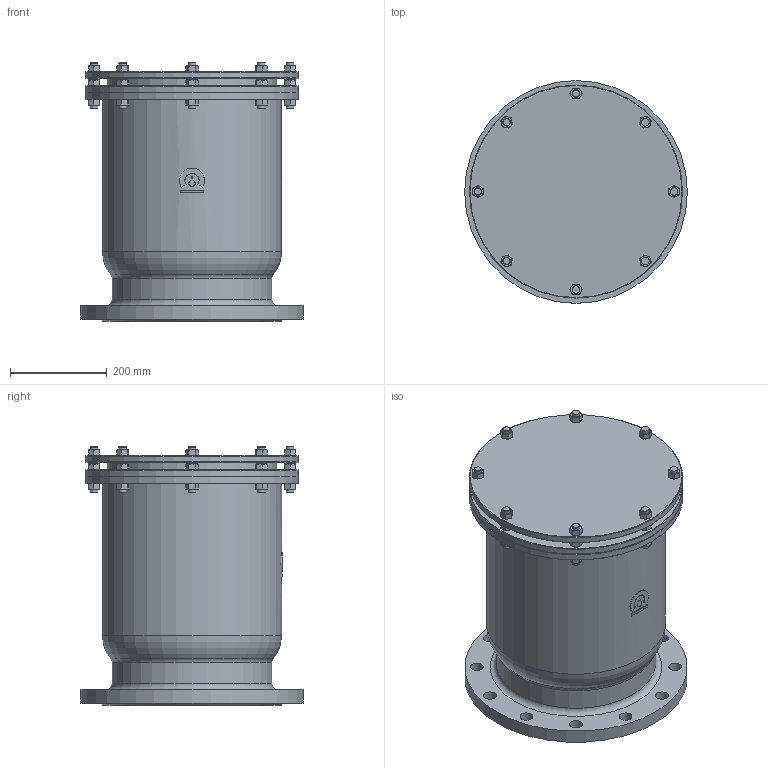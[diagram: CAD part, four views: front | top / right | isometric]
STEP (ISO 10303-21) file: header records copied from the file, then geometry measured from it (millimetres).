
FILE_DESCRIPTION(('STEP AP203'), '1');
FILE_NAME('Òèï A10F - Âîçäóõîîòâîä÷èê îäíîêàìåðíûé DN300', '', ('UNSPECIFIED'), ('UNSPECIFIED'), 'ASCON STEP Converter 1.6', 'ASCON Math Kernel', '');
FILE_SCHEMA(('CONFIG_CONTROL_DESIGN'));
Length unit declared in the file: millimetre
Products named in the file (1): Тип A10F
Bounding box: 460 x 460 x 533 mm (x, y, z)
Volume: 45046943.7 mm3; surface area: 1358780.4 mm2
Topology: 1 solids, 1 shells, 556 faces, 1209 edges, 706 vertices
Faces by surface type: cone 297, plane 204, cylinder 52, torus 3
Full cylindrical faces by diameter (mm): 16 x24, 26 x12, 300 x1, 330 x1, 350 x1, 370 x1, 438 x1, 440 x3, 460 x1
Entity records: 32123 total; most frequent: CARTESIAN_POINT 16594, ORIENTED_EDGE 2304, DIRECTION 2081, EDGE_CURVE 1152, AXIS2_PLACEMENT_3D 957, VERTEX_POINT 706, EDGE_LOOP 704, FACE_BOUND 590
